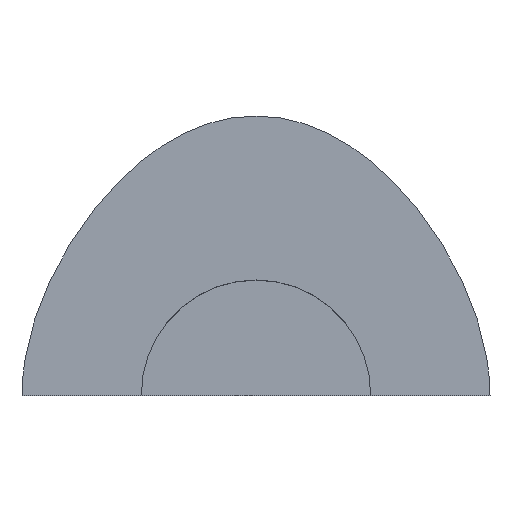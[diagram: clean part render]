
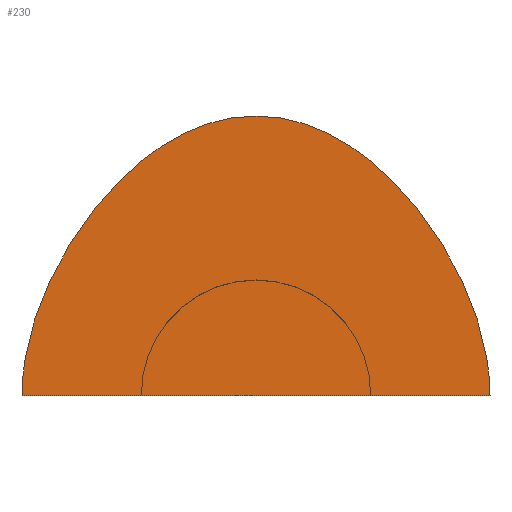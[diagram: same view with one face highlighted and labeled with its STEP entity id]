
A CAD part, top view. The second image highlights one B-rep face of the part: STEP entity #230.
In plain terms, the highlighted planar face has unit normal (0, 0, 1).
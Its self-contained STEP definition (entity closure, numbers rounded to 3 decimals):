
#193=CARTESIAN_POINT('Axis2P3D Location',(0.,49.479,0.)) ;
#198=CARTESIAN_POINT('Line Origine',(0.,0.,0.)) ;
#202=CARTESIAN_POINT('Vertex',(-102.,0.,0.)) ;
#204=CARTESIAN_POINT('Vertex',(102.,0.,0.)) ;
#208=CARTESIAN_POINT('Control Point',(0.,122.,0.)) ;
#209=CARTESIAN_POINT('Control Point',(31.804,122.,0.)) ;
#210=CARTESIAN_POINT('Control Point',(61.28,103.427,0.)) ;
#211=CARTESIAN_POINT('Control Point',(88.427,66.28,0.)) ;
#212=CARTESIAN_POINT('Control Point',(102.,31.804,0.)) ;
#213=CARTESIAN_POINT('Control Point',(102.,0.,0.)) ;
#214=CARTESIAN_POINT('Vertex',(0.,122.,0.)) ;
#218=CARTESIAN_POINT('Control Point',(0.,122.,0.)) ;
#219=CARTESIAN_POINT('Control Point',(-31.804,122.,0.)) ;
#220=CARTESIAN_POINT('Control Point',(-61.28,103.427,0.)) ;
#221=CARTESIAN_POINT('Control Point',(-88.427,66.28,0.)) ;
#222=CARTESIAN_POINT('Control Point',(-102.,31.804,0.)) ;
#223=CARTESIAN_POINT('Control Point',(-102.,0.,0.)) ;
#194=DIRECTION('Axis2P3D Direction',(0.,0.,-1.)) ;
#195=DIRECTION('Axis2P3D XDirection',(1.,0.,0.)) ;
#199=DIRECTION('Vector Direction',(1.,0.,0.)) ;
#196=AXIS2_PLACEMENT_3D('Plane Axis2P3D',#193,#194,#195) ;
#226=ORIENTED_EDGE('',*,*,#206,.T.) ;
#227=ORIENTED_EDGE('',*,*,#216,.T.) ;
#228=ORIENTED_EDGE('',*,*,#224,.T.) ;
#200=VECTOR('Line Direction',#199,1.) ;
#230=ADVANCED_FACE('Fill.1',(#229),#197,.F.) ;
#207=B_SPLINE_CURVE_WITH_KNOTS('',5,(#208,#209,#210,#211,#212,#213),.UNSPECIFIED.,.F.,.U.,(6,6),(0.,159.022),.UNSPECIFIED.) ;
#217=B_SPLINE_CURVE_WITH_KNOTS('',5,(#218,#219,#220,#221,#222,#223),.UNSPECIFIED.,.F.,.U.,(6,6),(0.,159.022),.UNSPECIFIED.) ;
#206=EDGE_CURVE('',#203,#205,#201,.T.) ;
#216=EDGE_CURVE('',#205,#215,#207,.F.) ;
#224=EDGE_CURVE('',#215,#203,#217,.T.) ;
#225=EDGE_LOOP('',(#226,#227,#228)) ;
#229=FACE_OUTER_BOUND('',#225,.T.) ;
#201=LINE('Line',#198,#200) ;
#197=PLANE('',#196) ;
#203=VERTEX_POINT('',#202) ;
#205=VERTEX_POINT('',#204) ;
#215=VERTEX_POINT('',#214) ;
